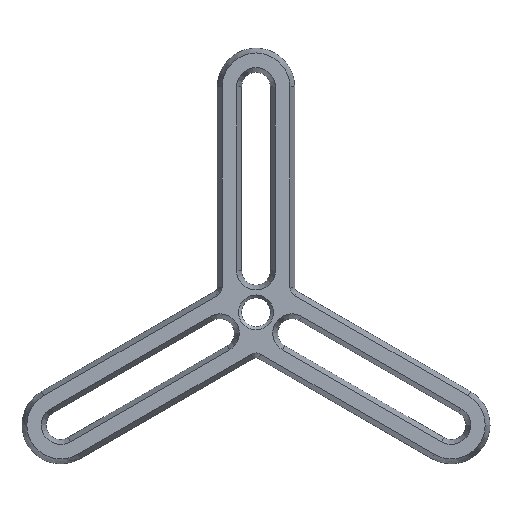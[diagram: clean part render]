
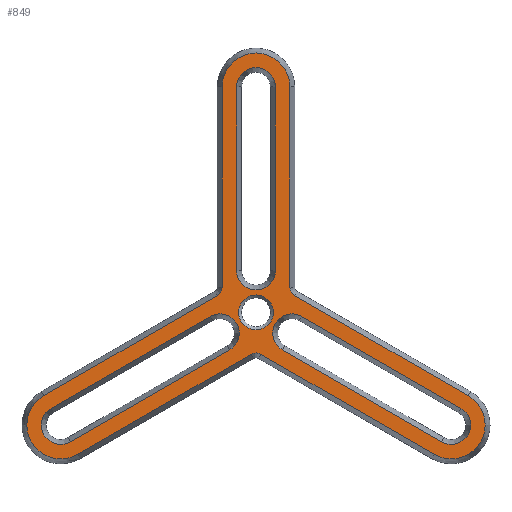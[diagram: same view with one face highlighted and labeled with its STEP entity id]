
A CAD part, top view. The second image highlights one B-rep face of the part: STEP entity #849.
In plain terms, the highlighted planar face has unit normal (0, 0, 1).
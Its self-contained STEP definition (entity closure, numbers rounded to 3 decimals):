
#28=FACE_BOUND('',#116,.T.);
#29=FACE_BOUND('',#117,.T.);
#30=FACE_BOUND('',#118,.T.);
#31=FACE_BOUND('',#119,.T.);
#36=PLANE('',#917);
#63=FACE_OUTER_BOUND('',#115,.T.);
#115=EDGE_LOOP('',(#589,#590,#591,#592,#593,#594,#595,#596,#597,#598,#599,
#600));
#116=EDGE_LOOP('',(#601,#602,#603,#604));
#117=EDGE_LOOP('',(#605,#606,#607,#608));
#118=EDGE_LOOP('',(#609,#610,#611,#612));
#119=EDGE_LOOP('',(#613));
#175=LINE('',#1285,#261);
#176=LINE('',#1289,#262);
#177=LINE('',#1293,#263);
#178=LINE('',#1297,#264);
#179=LINE('',#1301,#265);
#180=LINE('',#1305,#266);
#181=LINE('',#1309,#267);
#182=LINE('',#1313,#268);
#183=LINE('',#1317,#269);
#184=LINE('',#1321,#270);
#185=LINE('',#1325,#271);
#186=LINE('',#1329,#272);
#261=VECTOR('',#1016,10.);
#262=VECTOR('',#1019,10.);
#263=VECTOR('',#1022,10.);
#264=VECTOR('',#1025,10.);
#265=VECTOR('',#1028,10.);
#266=VECTOR('',#1031,10.);
#267=VECTOR('',#1034,10.);
#268=VECTOR('',#1037,10.);
#269=VECTOR('',#1040,10.);
#270=VECTOR('',#1043,10.);
#271=VECTOR('',#1046,10.);
#272=VECTOR('',#1049,10.);
#346=CIRCLE('',#915,3.6);
#348=CIRCLE('',#918,7.);
#349=CIRCLE('',#919,2.);
#350=CIRCLE('',#920,7.);
#351=CIRCLE('',#921,2.);
#352=CIRCLE('',#922,7.);
#353=CIRCLE('',#923,2.);
#354=CIRCLE('',#924,4.);
#355=CIRCLE('',#925,4.);
#356=CIRCLE('',#926,4.);
#357=CIRCLE('',#927,4.);
#358=CIRCLE('',#928,4.);
#359=CIRCLE('',#929,4.);
#385=VERTEX_POINT('',#1277);
#387=VERTEX_POINT('',#1283);
#388=VERTEX_POINT('',#1284);
#389=VERTEX_POINT('',#1286);
#390=VERTEX_POINT('',#1288);
#391=VERTEX_POINT('',#1290);
#392=VERTEX_POINT('',#1292);
#393=VERTEX_POINT('',#1294);
#394=VERTEX_POINT('',#1296);
#395=VERTEX_POINT('',#1298);
#396=VERTEX_POINT('',#1300);
#397=VERTEX_POINT('',#1302);
#398=VERTEX_POINT('',#1304);
#399=VERTEX_POINT('',#1307);
#400=VERTEX_POINT('',#1308);
#401=VERTEX_POINT('',#1310);
#402=VERTEX_POINT('',#1312);
#403=VERTEX_POINT('',#1315);
#404=VERTEX_POINT('',#1316);
#405=VERTEX_POINT('',#1318);
#406=VERTEX_POINT('',#1320);
#407=VERTEX_POINT('',#1323);
#408=VERTEX_POINT('',#1324);
#409=VERTEX_POINT('',#1326);
#410=VERTEX_POINT('',#1328);
#460=EDGE_CURVE('',#385,#385,#346,.T.);
#463=EDGE_CURVE('',#387,#388,#175,.T.);
#464=EDGE_CURVE('',#389,#387,#348,.T.);
#465=EDGE_CURVE('',#390,#389,#176,.T.);
#466=EDGE_CURVE('',#391,#390,#349,.T.);
#467=EDGE_CURVE('',#392,#391,#177,.T.);
#468=EDGE_CURVE('',#393,#392,#350,.T.);
#469=EDGE_CURVE('',#394,#393,#178,.T.);
#470=EDGE_CURVE('',#395,#394,#351,.T.);
#471=EDGE_CURVE('',#396,#395,#179,.T.);
#472=EDGE_CURVE('',#397,#396,#352,.T.);
#473=EDGE_CURVE('',#398,#397,#180,.T.);
#474=EDGE_CURVE('',#388,#398,#353,.T.);
#475=EDGE_CURVE('',#399,#400,#181,.T.);
#476=EDGE_CURVE('',#401,#399,#354,.T.);
#477=EDGE_CURVE('',#402,#401,#182,.T.);
#478=EDGE_CURVE('',#400,#402,#355,.T.);
#479=EDGE_CURVE('',#403,#404,#183,.T.);
#480=EDGE_CURVE('',#405,#403,#356,.T.);
#481=EDGE_CURVE('',#406,#405,#184,.T.);
#482=EDGE_CURVE('',#404,#406,#357,.T.);
#483=EDGE_CURVE('',#407,#408,#185,.T.);
#484=EDGE_CURVE('',#409,#407,#358,.T.);
#485=EDGE_CURVE('',#410,#409,#186,.T.);
#486=EDGE_CURVE('',#408,#410,#359,.T.);
#589=ORIENTED_EDGE('',*,*,#463,.F.);
#590=ORIENTED_EDGE('',*,*,#464,.F.);
#591=ORIENTED_EDGE('',*,*,#465,.F.);
#592=ORIENTED_EDGE('',*,*,#466,.F.);
#593=ORIENTED_EDGE('',*,*,#467,.F.);
#594=ORIENTED_EDGE('',*,*,#468,.F.);
#595=ORIENTED_EDGE('',*,*,#469,.F.);
#596=ORIENTED_EDGE('',*,*,#470,.F.);
#597=ORIENTED_EDGE('',*,*,#471,.F.);
#598=ORIENTED_EDGE('',*,*,#472,.F.);
#599=ORIENTED_EDGE('',*,*,#473,.F.);
#600=ORIENTED_EDGE('',*,*,#474,.F.);
#601=ORIENTED_EDGE('',*,*,#475,.F.);
#602=ORIENTED_EDGE('',*,*,#476,.F.);
#603=ORIENTED_EDGE('',*,*,#477,.F.);
#604=ORIENTED_EDGE('',*,*,#478,.F.);
#605=ORIENTED_EDGE('',*,*,#479,.F.);
#606=ORIENTED_EDGE('',*,*,#480,.F.);
#607=ORIENTED_EDGE('',*,*,#481,.F.);
#608=ORIENTED_EDGE('',*,*,#482,.F.);
#609=ORIENTED_EDGE('',*,*,#483,.F.);
#610=ORIENTED_EDGE('',*,*,#484,.F.);
#611=ORIENTED_EDGE('',*,*,#485,.F.);
#612=ORIENTED_EDGE('',*,*,#486,.F.);
#613=ORIENTED_EDGE('',*,*,#460,.F.);
#849=ADVANCED_FACE('',(#63,#28,#29,#30,#31),#36,.T.);
#915=AXIS2_PLACEMENT_3D('',#1278,#1009,#1010);
#917=AXIS2_PLACEMENT_3D('',#1282,#1014,#1015);
#918=AXIS2_PLACEMENT_3D('',#1287,#1017,#1018);
#919=AXIS2_PLACEMENT_3D('',#1291,#1020,#1021);
#920=AXIS2_PLACEMENT_3D('',#1295,#1023,#1024);
#921=AXIS2_PLACEMENT_3D('',#1299,#1026,#1027);
#922=AXIS2_PLACEMENT_3D('',#1303,#1029,#1030);
#923=AXIS2_PLACEMENT_3D('',#1306,#1032,#1033);
#924=AXIS2_PLACEMENT_3D('',#1311,#1035,#1036);
#925=AXIS2_PLACEMENT_3D('',#1314,#1038,#1039);
#926=AXIS2_PLACEMENT_3D('',#1319,#1041,#1042);
#927=AXIS2_PLACEMENT_3D('',#1322,#1044,#1045);
#928=AXIS2_PLACEMENT_3D('',#1327,#1047,#1048);
#929=AXIS2_PLACEMENT_3D('',#1330,#1050,#1051);
#1009=DIRECTION('center_axis',(0.,0.,1.));
#1010=DIRECTION('ref_axis',(1.,0.,0.));
#1014=DIRECTION('center_axis',(0.,0.,1.));
#1015=DIRECTION('ref_axis',(1.,0.,0.));
#1016=DIRECTION('',(0.,-1.,0.));
#1017=DIRECTION('center_axis',(0.,0.,-1.));
#1018=DIRECTION('ref_axis',(1.,0.,0.));
#1019=DIRECTION('',(0.,1.,0.));
#1020=DIRECTION('center_axis',(0.,0.,1.));
#1021=DIRECTION('ref_axis',(0.5,-0.866,0.));
#1022=DIRECTION('',(0.866,0.5,0.));
#1023=DIRECTION('center_axis',(0.,0.,-1.));
#1024=DIRECTION('ref_axis',(-0.5,0.866,0.));
#1025=DIRECTION('',(-0.866,-0.5,0.));
#1026=DIRECTION('center_axis',(0.,0.,1.));
#1027=DIRECTION('ref_axis',(0.5,0.866,0.));
#1028=DIRECTION('',(-0.866,0.5,0.));
#1029=DIRECTION('center_axis',(0.,0.,-1.));
#1030=DIRECTION('ref_axis',(-0.5,-0.866,0.));
#1031=DIRECTION('',(0.866,-0.5,0.));
#1032=DIRECTION('center_axis',(0.,0.,1.));
#1033=DIRECTION('ref_axis',(-1.,0.,0.));
#1034=DIRECTION('',(0.866,-0.5,0.));
#1035=DIRECTION('center_axis',(0.,0.,1.));
#1036=DIRECTION('ref_axis',(0.5,0.866,0.));
#1037=DIRECTION('',(-0.866,0.5,0.));
#1038=DIRECTION('center_axis',(0.,0.,1.));
#1039=DIRECTION('ref_axis',(-0.5,-0.866,0.));
#1040=DIRECTION('',(0.,1.,0.));
#1041=DIRECTION('center_axis',(0.,0.,1.));
#1042=DIRECTION('ref_axis',(-1.,0.,0.));
#1043=DIRECTION('',(0.,-1.,0.));
#1044=DIRECTION('center_axis',(0.,0.,1.));
#1045=DIRECTION('ref_axis',(1.,0.,0.));
#1046=DIRECTION('',(0.866,0.5,0.));
#1047=DIRECTION('center_axis',(0.,0.,1.));
#1048=DIRECTION('ref_axis',(-0.5,0.866,0.));
#1049=DIRECTION('',(-0.866,-0.5,0.));
#1050=DIRECTION('center_axis',(0.,0.,1.));
#1051=DIRECTION('ref_axis',(0.5,-0.866,0.));
#1277=CARTESIAN_POINT('',(-593.6,554.256,15.));
#1278=CARTESIAN_POINT('Origin',(-590.,554.256,15.));
#1282=CARTESIAN_POINT('Origin',(-590.,565.911,15.));
#1283=CARTESIAN_POINT('',(-583.,600.875,15.));
#1284=CARTESIAN_POINT('',(-583.,559.452,15.));
#1285=CARTESIAN_POINT('',(-583.,562.681,15.));
#1286=CARTESIAN_POINT('',(-597.,600.875,15.));
#1287=CARTESIAN_POINT('Origin',(-590.,600.875,15.));
#1288=CARTESIAN_POINT('',(-597.,559.452,15.));
#1289=CARTESIAN_POINT('',(-597.,583.393,15.));
#1290=CARTESIAN_POINT('',(-598.,557.72,15.));
#1291=CARTESIAN_POINT('Origin',(-599.,559.452,15.));
#1292=CARTESIAN_POINT('',(-633.873,537.009,15.));
#1293=CARTESIAN_POINT('',(-593.227,560.476,15.));
#1294=CARTESIAN_POINT('',(-626.873,524.884,15.));
#1295=CARTESIAN_POINT('Origin',(-630.373,530.947,15.));
#1296=CARTESIAN_POINT('',(-591.,545.596,15.));
#1297=CARTESIAN_POINT('',(-604.163,537.996,15.));
#1298=CARTESIAN_POINT('',(-589.,545.596,15.));
#1299=CARTESIAN_POINT('Origin',(-590.,543.864,15.));
#1300=CARTESIAN_POINT('',(-553.127,524.884,15.));
#1301=CARTESIAN_POINT('',(-593.773,548.352,15.));
#1302=CARTESIAN_POINT('',(-546.127,537.009,15.));
#1303=CARTESIAN_POINT('Origin',(-549.627,530.947,15.));
#1304=CARTESIAN_POINT('',(-582.,557.72,15.));
#1305=CARTESIAN_POINT('',(-568.837,550.12,15.));
#1306=CARTESIAN_POINT('Origin',(-581.,559.452,15.));
#1307=CARTESIAN_POINT('',(-584.536,546.483,15.));
#1308=CARTESIAN_POINT('',(-551.627,527.483,15.));
#1309=CARTESIAN_POINT('',(-574.337,540.594,15.));
#1310=CARTESIAN_POINT('',(-580.536,553.411,15.));
#1311=CARTESIAN_POINT('Origin',(-582.536,549.947,15.));
#1312=CARTESIAN_POINT('',(-547.627,534.411,15.));
#1313=CARTESIAN_POINT('',(-586.791,557.022,15.));
#1314=CARTESIAN_POINT('Origin',(-549.627,530.947,15.));
#1315=CARTESIAN_POINT('',(-586.,562.875,15.));
#1316=CARTESIAN_POINT('',(-586.,600.875,15.));
#1317=CARTESIAN_POINT('',(-586.,583.393,15.));
#1318=CARTESIAN_POINT('',(-594.,562.875,15.));
#1319=CARTESIAN_POINT('Origin',(-590.,562.875,15.));
#1320=CARTESIAN_POINT('',(-594.,600.875,15.));
#1321=CARTESIAN_POINT('',(-594.,564.393,15.));
#1322=CARTESIAN_POINT('Origin',(-590.,600.875,15.));
#1323=CARTESIAN_POINT('',(-628.373,527.483,15.));
#1324=CARTESIAN_POINT('',(-595.464,546.483,15.));
#1325=CARTESIAN_POINT('',(-589.209,550.094,15.));
#1326=CARTESIAN_POINT('',(-632.373,534.411,15.));
#1327=CARTESIAN_POINT('Origin',(-630.373,530.947,15.));
#1328=CARTESIAN_POINT('',(-599.464,553.411,15.));
#1329=CARTESIAN_POINT('',(-609.663,547.522,15.));
#1330=CARTESIAN_POINT('Origin',(-597.464,549.947,15.));
